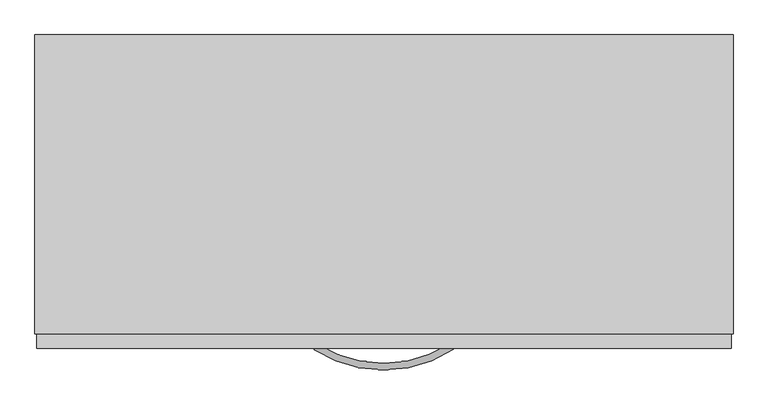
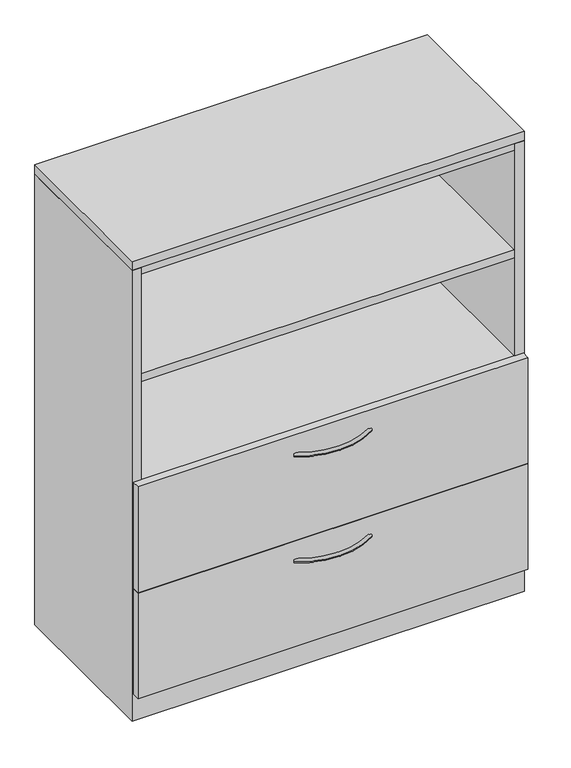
"""IFC4 building model written with IfcOpenShell, lengths in millimetres: furniture geometry, Steelcase - Universal Storage - Cabinet - Combination - Proud Steel : 52H - Open Cabinet/2 Drawers - 18 7/8D x 42W."""

from ifc_helpers import new_model, si_unit, point, frame, origin, place, context, project, spatial, polyline, circle_curve, ellipse_curve, trimmed, outline, extrude, faceted_brep, source, transform, mapped, element, save
from ifc_brep_helpers import plane_surface, revolved_surface, advanced_brep


def furniture_051b6af0(model_context):
    return source(origin(), model_context, "Body", "SolidModel", [
        extrude(outline(polyline([(1041.4000242, -25.4000008), (1041.4000242, -454.0250121), (25.4000008, -454.0250121), (25.4000008, -25.4000008), (1041.4000242, -25.4000008)])), frame((0.0, 0.0, 660.4000242), z_axis=(0.0, 0.0, 1.0), x_axis=(1.0, 0.0, 0.0)), (0.0, 0.0, 1.0), 22.2249516),
        extrude(outline(polyline([(1041.4000242, -25.4000008), (1041.4000242, -454.0250121), (25.4000008, -454.0250121), (25.4000008, -25.4000008), (1041.4000242, -25.4000008)])), frame((0.0, 0.0, 965.2000242), z_axis=(0.0, 0.0, 1.0), x_axis=(1.0, 0.0, 0.0)), (0.0, 0.0, 1.0), 22.2249516),
        extrude(outline(polyline([(1041.4000242, -25.4000008), (1041.4000242, -454.0250121), (25.4000008, -454.0250121), (25.4000008, -25.4000008), (1041.4000242, -25.4000008)])), frame((0.0, 0.0, 1273.1750484), z_axis=(0.0, 0.0, 1.0), x_axis=(1.0, 0.0, 0.0)), (0.0, 0.0, 1.0), 22.2249516),
        advanced_brep(
        [(426.8245932, -481.5705994, 323.56425), (432.2977519, -473.0108019, 323.56425), (639.1315136, -481.1337636, 323.56425), (633.6231767, -472.5965612, 323.56425)],
        [
            (0, 1, circle_curve(frame((429.5611726, -477.2907007, 323.56425), z_axis=(-0.8424997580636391, 0.5386967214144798, 0.0), x_axis=(0.5386967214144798, 0.8424997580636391, 0.0)), 5.08)),
            (1, 0, circle_curve(frame((429.5611726, -477.2907007, 323.56425), z_axis=(-0.8424997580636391, 0.5386967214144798, 0.0), x_axis=(0.5386967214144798, 0.8424997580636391, 0.0)), 5.08)),
            (2, 3, circle_curve(frame((636.3773452, -476.8651624, 323.56425), z_axis=(0.8402758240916, 0.5421591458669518, 0.0), x_axis=(-0.5421591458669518, 0.8402758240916, 0.0)), 5.08)),
            (3, 2, circle_curve(frame((636.3773452, -476.8651624, 323.56425), z_axis=(0.8402758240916, 0.5421591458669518, 0.0), x_axis=(-0.5421591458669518, 0.8402758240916, 0.0)), 5.08)),
            (3, 1, circle_curve(frame((532.6380004, -316.0827352, 323.56425), z_axis=(0.0, 0.0, -1.0), x_axis=(-0.5386967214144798, -0.8424997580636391, 0.0)), 186.2648211)),
            (0, 2, circle_curve(frame((532.6380004, -316.0827352, 323.56425), z_axis=(0.0, 0.0, 1.0), x_axis=(-0.5386967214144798, -0.8424997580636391, 0.0)), 196.4248211)),
        ],
        [
            plane_surface(frame((429.9794521, -476.6365286, 324.358), z_axis=(-0.8424997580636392, 0.5386967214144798, 0.0), x_axis=(0.0, 0.0, 1.0))),
            plane_surface(frame((635.9563772, -476.2127171, 324.358), z_axis=(0.8402758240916, 0.5421591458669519, 0.0), x_axis=(0.0, 0.0, 1.0))),
            revolved_surface(trimmed(ellipse_curve(frame((429.5611726, -477.2907007, 323.56425), z_axis=(-0.8424997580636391, 0.5386967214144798, 0.0), x_axis=(0.5386967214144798, 0.8424997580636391, 0.0)), 5.08, 5.08), [point((426.8245932, -481.5705994, 323.56425))], [point((432.2977519, -473.0108019, 323.56425))], True, "CARTESIAN"), (532.6380004, -316.0827352, 324.358), (0.0, 0.0, 1.0)),
            revolved_surface(trimmed(ellipse_curve(frame((429.5611726, -477.2907007, 323.56425), z_axis=(-0.8424997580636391, 0.5386967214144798, 0.0), x_axis=(0.5386967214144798, 0.8424997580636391, 0.0)), 5.08, 5.08), [point((432.2977519, -473.0108019, 323.56425))], [point((426.8245932, -481.5705994, 323.56425))], True, "CARTESIAN"), (532.6380004, -316.0827352, 324.358), (0.0, 0.0, 1.0)),
        ],
        [
            (0, [[1, 2]]),
            (1, [[3, 4]]),
            (2, [[5, -1, 6, -4]]),
            (3, [[-6, -2, -5, -3]]),
        ],
    ),
        advanced_brep(
        [(426.8245932, -481.5705994, 627.85625), (432.2977519, -473.0108019, 627.85625), (639.1315136, -481.1337636, 627.85625), (633.6231767, -472.5965612, 627.85625)],
        [
            (0, 1, circle_curve(frame((429.5611726, -477.2907007, 627.85625), z_axis=(-0.8424997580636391, 0.5386967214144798, 0.0), x_axis=(0.5386967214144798, 0.8424997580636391, 0.0)), 5.08)),
            (1, 0, circle_curve(frame((429.5611726, -477.2907007, 627.85625), z_axis=(-0.8424997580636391, 0.5386967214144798, 0.0), x_axis=(0.5386967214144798, 0.8424997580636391, 0.0)), 5.08)),
            (2, 3, circle_curve(frame((636.3773452, -476.8651624, 627.85625), z_axis=(0.8402758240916, 0.5421591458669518, 0.0), x_axis=(-0.5421591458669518, 0.8402758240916, 0.0)), 5.08)),
            (3, 2, circle_curve(frame((636.3773452, -476.8651624, 627.85625), z_axis=(0.8402758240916, 0.5421591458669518, 0.0), x_axis=(-0.5421591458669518, 0.8402758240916, 0.0)), 5.08)),
            (3, 1, circle_curve(frame((532.6380004, -316.0827352, 627.85625), z_axis=(0.0, 0.0, -1.0), x_axis=(-0.5386967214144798, -0.8424997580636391, 0.0)), 186.2648211)),
            (0, 2, circle_curve(frame((532.6380004, -316.0827352, 627.85625), z_axis=(0.0, 0.0, 1.0), x_axis=(-0.5386967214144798, -0.8424997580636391, 0.0)), 196.4248211)),
        ],
        [
            plane_surface(frame((429.9794521, -476.6365286, 628.65), z_axis=(-0.8424997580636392, 0.5386967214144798, 0.0), x_axis=(0.0, 0.0, 1.0))),
            plane_surface(frame((635.9563772, -476.2127171, 628.65), z_axis=(0.8402758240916, 0.5421591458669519, 0.0), x_axis=(0.0, 0.0, 1.0))),
            revolved_surface(trimmed(ellipse_curve(frame((429.5611726, -477.2907007, 627.85625), z_axis=(-0.8424997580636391, 0.5386967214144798, 0.0), x_axis=(0.5386967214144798, 0.8424997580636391, 0.0)), 5.08, 5.08), [point((426.8245932, -481.5705994, 627.85625))], [point((432.2977519, -473.0108019, 627.85625))], True, "CARTESIAN"), (532.6380004, -316.0827352, 628.65), (0.0, 0.0, 1.0)),
            revolved_surface(trimmed(ellipse_curve(frame((429.5611726, -477.2907007, 627.85625), z_axis=(-0.8424997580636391, 0.5386967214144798, 0.0), x_axis=(0.5386967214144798, 0.8424997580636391, 0.0)), 5.08, 5.08), [point((432.2977519, -473.0108019, 627.85625))], [point((426.8245932, -481.5705994, 627.85625))], True, "CARTESIAN"), (532.6380004, -316.0827352, 628.65), (0.0, 0.0, 1.0)),
        ],
        [
            (0, [[1, 2]]),
            (1, [[3, 4]]),
            (2, [[5, -1, 6, -4]]),
            (3, [[-6, -2, -5, -3]]),
        ],
    ),
        faceted_brep([(25.4000008, -457.3261219, 76.2), (1041.4000242, -457.3261219, 76.2), (1041.4000242, -25.4000008, 76.2), (25.4000008, -25.4000008, 76.2), (1066.8, 0.0, 0.0), (1066.8, -457.3261219, 0.0), (0.0, -457.3261219, 0.0), (0.0, 0.0, 0.0), (0.0, 0.0, 1293.876), (1066.8, 0.0, 1293.876), (0.0, -457.3261219, 1293.876), (1066.8, -457.3261219, 1293.876), (1041.4000242, -457.3261219, 1293.876), (25.4000008, -457.3261219, 1293.876), (1041.4000242, -25.4000008, 1293.876), (25.4000008, -25.4000008, 1293.876)], [[[0, 1, 2, 3]], [[4, 5, 6, 7]], [[4, 7, 8, 9]], [[8, 7, 6, 10]], [[10, 6, 5, 11, 12, 1, 0, 13]], [[11, 5, 4, 9]], [[14, 12, 11, 9, 8, 10, 13, 15]], [[12, 14, 2, 1]], [[15, 13, 0, 3]], [[14, 15, 3, 2]]]),
        extrude(outline(polyline([(1063.6225413, -479.552), (3.1725353, -479.552), (3.1725353, -457.3261219), (1063.6225413, -457.3261219), (1063.6225413, -479.552)])), frame((0.0, 0.0, 77.724), z_axis=(0.0, 0.0, 1.0), x_axis=(1.0, 0.0, 0.0)), (0.0, 0.0, 1.0), 303.276),
        extrude(outline(polyline([(1063.6225413, -479.552), (3.1725353, -479.552), (3.1725353, -457.3261219), (1063.6225413, -457.3261219), (1063.6225413, -479.552)])), frame((0.0, 0.0, 382.524), z_axis=(0.0, 0.0, 1.0), x_axis=(1.0, 0.0, 0.0)), (0.0, 0.0, 1.0), 303.276),
        extrude(outline(polyline([(1066.8, 0.0), (1066.8, -457.3261219), (0.0, -457.3261219), (0.0, 0.0), (1066.8, 0.0)])), frame((0.0, 0.0, 1295.3999516), z_axis=(0.0, 0.0, 1.0), x_axis=(1.0, 0.0, 0.0)), (0.0, 0.0, 1.0), 25.4000484),
    ])


if __name__ == "__main__":
    model = new_model("IFC4")
    model_context = context("Model", 3, world=origin())
    ifc_project = project(units=[si_unit("LENGTHUNIT", "METRE", prefix="MILLI")], contexts=[model_context])
    site = spatial("IfcSite", under=ifc_project)
    building = spatial("IfcBuilding", under=site)
    placement = place(None, origin())
    furniture_shape = furniture_051b6af0(model_context)
    element("IfcFurniture", 1, ObjectType="Steelcase - Universal Storage - Cabinet - Combination - Proud Steel : 52H - Open Cabinet/2 Drawers - 18 7/8D x 42W", at=placement, inside=building, context=model_context, shape_type="MappedRepresentation", body=[
        mapped(furniture_shape, transform((0.0, 0.0, 0.0), x_axis=(1.0, 0.0, 0.0), y_axis=(0.0, 1.0, 0.0), z_axis=(0.0, 0.0, 1.0))),
    ])
    save(model, "model.ifc")
